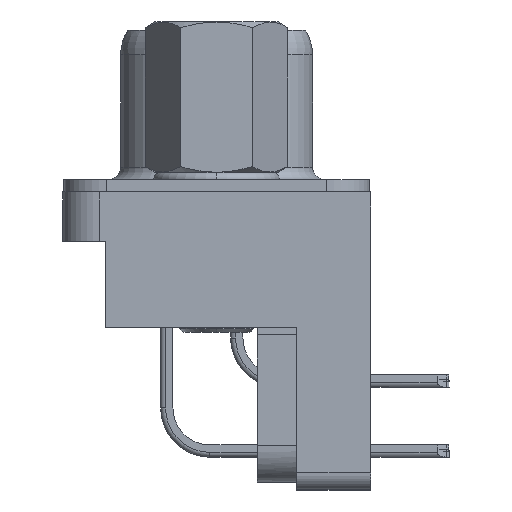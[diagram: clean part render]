
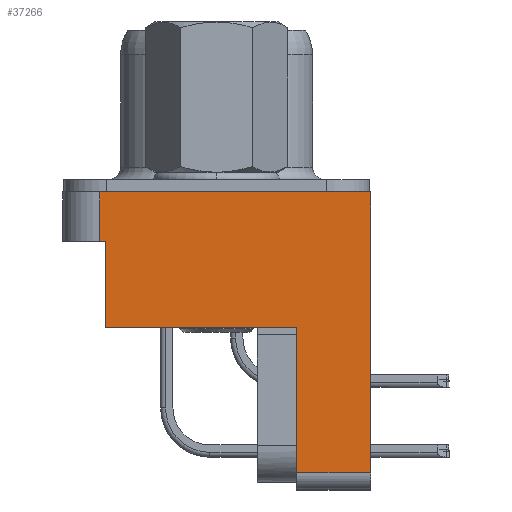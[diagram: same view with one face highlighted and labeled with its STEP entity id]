
A CAD part, left-side view. The second image highlights one B-rep face of the part: STEP entity #37266.
In plain terms, the highlighted planar face has unit normal (-1, 0, 0).
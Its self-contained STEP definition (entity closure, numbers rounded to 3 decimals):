
#308 = ORIENTED_EDGE ( 'NONE', *, *, #31463, .T. ) ;
#2434 = EDGE_CURVE ( 'NONE', #30088, #8097, #41623, .T. ) ;
#2705 = CARTESIAN_POINT ( 'NONE',  ( -26.52, 6.25, 0. ) ) ;
#2804 = VERTEX_POINT ( 'NONE', #8239 ) ;
#3217 = CARTESIAN_POINT ( 'NONE',  ( -26.52, -3.25, -5.5 ) ) ;
#3545 = LINE ( 'NONE', #2705, #30960 ) ;
#3741 = LINE ( 'NONE', #27073, #22336 ) ;
#3956 = VERTEX_POINT ( 'NONE', #34664 ) ;
#5017 = DIRECTION ( 'NONE',  ( 0., -1., 0. ) ) ;
#5053 = EDGE_CURVE ( 'NONE', #2804, #26019, #8899, .T. ) ;
#6395 = CARTESIAN_POINT ( 'NONE',  ( -26.52, -6.25, 0. ) ) ;
#6398 = DIRECTION ( 'NONE',  ( 0., 0., 1. ) ) ;
#7171 = CARTESIAN_POINT ( 'NONE',  ( -26.52, 4.5, -5.5 ) ) ;
#7908 = VECTOR ( 'NONE', #44321, 1000. ) ;
#7924 = EDGE_CURVE ( 'NONE', #26019, #17997, #3741, .T. ) ;
#8097 = VERTEX_POINT ( 'NONE', #37923 ) ;
#8239 = CARTESIAN_POINT ( 'NONE',  ( -26.52, -3.25, -11.4 ) ) ;
#8572 = VECTOR ( 'NONE', #21245, 1000. ) ;
#8899 = LINE ( 'NONE', #17551, #38494 ) ;
#9170 = EDGE_CURVE ( 'NONE', #2804, #36799, #34916, .T. ) ;
#10139 = CARTESIAN_POINT ( 'NONE',  ( -26.52, 4.75, 0. ) ) ;
#10355 = DIRECTION ( 'NONE',  ( 0., -1., 0. ) ) ;
#11864 = ORIENTED_EDGE ( 'NONE', *, *, #26886, .T. ) ;
#12746 = LINE ( 'NONE', #43948, #26481 ) ;
#13568 = DIRECTION ( 'NONE',  ( -1., 0., 0. ) ) ;
#16359 = DIRECTION ( 'NONE',  ( 0., 0., 1. ) ) ;
#16573 = FACE_OUTER_BOUND ( 'NONE', #21472, .T. ) ;
#16855 = ORIENTED_EDGE ( 'NONE', *, *, #5053, .T. ) ;
#17551 = CARTESIAN_POINT ( 'NONE',  ( -26.52, -6.25, -11.4 ) ) ;
#17655 = ORIENTED_EDGE ( 'NONE', *, *, #9170, .F. ) ;
#17674 = ORIENTED_EDGE ( 'NONE', *, *, #25826, .F. ) ;
#17997 = VERTEX_POINT ( 'NONE', #6395 ) ;
#19279 = DIRECTION ( 'NONE',  ( 0., 0., 1. ) ) ;
#20610 = CARTESIAN_POINT ( 'NONE',  ( -26.52, 6.25, -5.5 ) ) ;
#21245 = DIRECTION ( 'NONE',  ( 0., 0., 1. ) ) ;
#21472 = EDGE_LOOP ( 'NONE', ( #308, #17655, #16855, #32977, #17674, #11864, #35185, #22586 ) ) ;
#22336 = VECTOR ( 'NONE', #16359, 1000. ) ;
#22586 = ORIENTED_EDGE ( 'NONE', *, *, #2434, .F. ) ;
#23244 = LINE ( 'NONE', #26229, #7908 ) ;
#24997 = VERTEX_POINT ( 'NONE', #10139 ) ;
#25826 = EDGE_CURVE ( 'NONE', #24997, #17997, #3545, .T. ) ;
#26019 = VERTEX_POINT ( 'NONE', #34862 ) ;
#26229 = CARTESIAN_POINT ( 'NONE',  ( -26.52, 4.75, -5.5 ) ) ;
#26481 = VECTOR ( 'NONE', #5017, 1000. ) ;
#26748 = EDGE_CURVE ( 'NONE', #3956, #8097, #28757, .T. ) ;
#26886 = EDGE_CURVE ( 'NONE', #24997, #3956, #23244, .T. ) ;
#27073 = CARTESIAN_POINT ( 'NONE',  ( -26.52, -6.25, -5.5 ) ) ;
#28757 = LINE ( 'NONE', #38945, #30971 ) ;
#28992 = VECTOR ( 'NONE', #19279, 1000. ) ;
#30088 = VERTEX_POINT ( 'NONE', #7171 ) ;
#30102 = DIRECTION ( 'NONE',  ( 0., -1., 0. ) ) ;
#30960 = VECTOR ( 'NONE', #30102, 1000. ) ;
#30971 = VECTOR ( 'NONE', #35268, 1000. ) ;
#31463 = EDGE_CURVE ( 'NONE', #30088, #36799, #12746, .T. ) ;
#32909 = AXIS2_PLACEMENT_3D ( 'NONE', #20610, #13568, #6398 ) ;
#32977 = ORIENTED_EDGE ( 'NONE', *, *, #7924, .T. ) ;
#34099 = PLANE ( 'NONE',  #32909 ) ;
#34664 = CARTESIAN_POINT ( 'NONE',  ( -26.52, 4.75, -2. ) ) ;
#34862 = CARTESIAN_POINT ( 'NONE',  ( -26.52, -6.25, -11.4 ) ) ;
#34916 = LINE ( 'NONE', #42240, #8572 ) ;
#35185 = ORIENTED_EDGE ( 'NONE', *, *, #26748, .T. ) ;
#35268 = DIRECTION ( 'NONE',  ( 0., -1., 0. ) ) ;
#36799 = VERTEX_POINT ( 'NONE', #3217 ) ;
#37266 = ADVANCED_FACE ( 'NONE', ( #16573 ), #34099, .T. ) ;
#37923 = CARTESIAN_POINT ( 'NONE',  ( -26.52, 4.5, -2. ) ) ;
#38494 = VECTOR ( 'NONE', #10355, 1000. ) ;
#38945 = CARTESIAN_POINT ( 'NONE',  ( -26.52, 7.5, -2. ) ) ;
#40144 = CARTESIAN_POINT ( 'NONE',  ( -26.52, 4.5, -5.5 ) ) ;
#41623 = LINE ( 'NONE', #40144, #28992 ) ;
#42240 = CARTESIAN_POINT ( 'NONE',  ( -26.52, -3.25, -5.5 ) ) ;
#43948 = CARTESIAN_POINT ( 'NONE',  ( -26.52, 6.25, -5.5 ) ) ;
#44321 = DIRECTION ( 'NONE',  ( 0., 0., -1. ) ) ;
